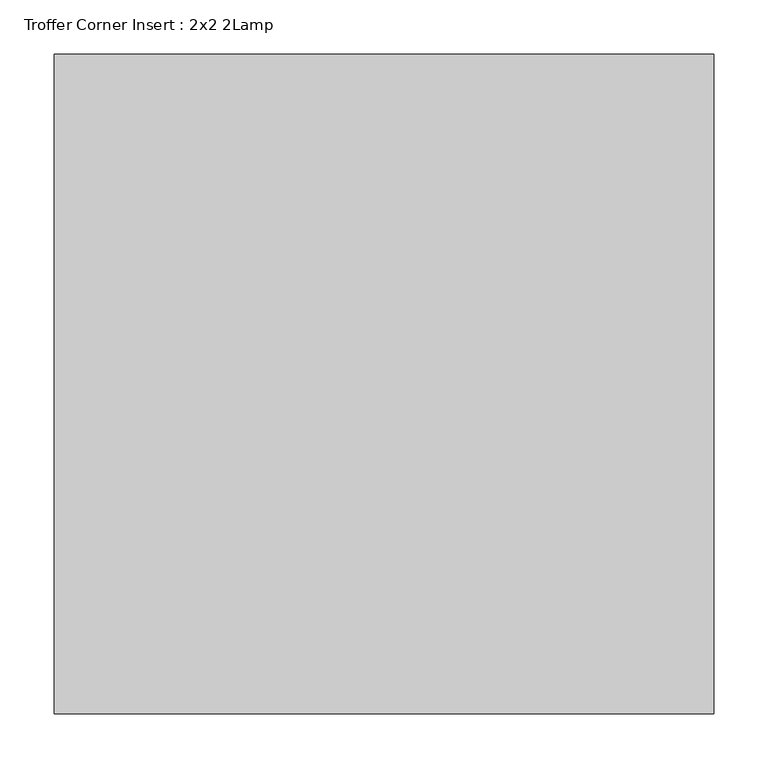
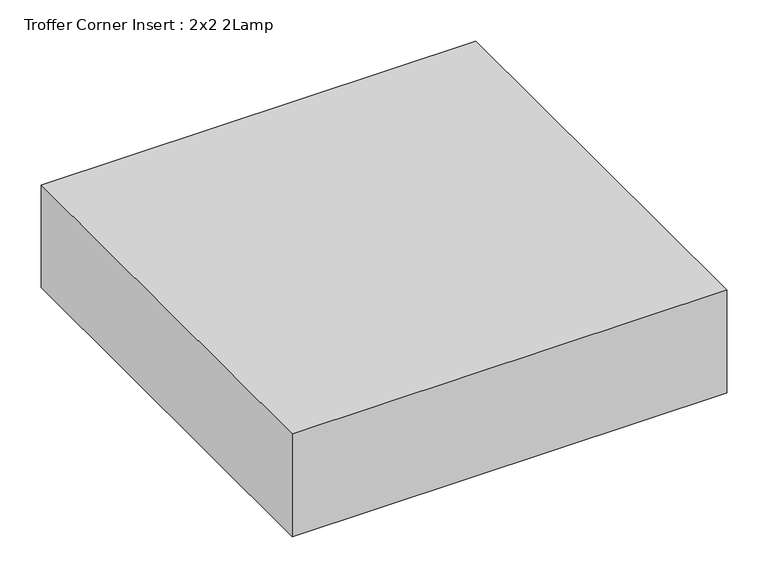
"""IFC4 building model written with IfcOpenShell, lengths in millimetres: light fixture geometry, Troffer Corner Insert : 2x2 2Lamp."""

import ifcopenshell
import ifcopenshell.guid

model = None  # the IFC model being written
_history = None  # IfcOwnerHistory: only IFC2X3 demands one
_inside = {}  # id of a spatial element -> (the spatial element, [elements in it])
_under = {}  # id of a project, library or spatial element -> (it, [spatial elements below it])
_declared = {}  # id of a project -> (the project, [libraries it declares])
_typed = {}  # id of a type object -> (the type object, [elements of that type])
_made_of = {}  # id of a material, layer set ... -> (it, [elements and type objects made of it])


def new_model(schema):
    """Start an empty IFC model of exactly this schema.

    Asked for "IFC4X3", IfcOpenShell would pick the latest addendum, in which some entities
    have other attributes; the version numbers below select the first issue.
    IFC2X3 requires an IfcOwnerHistory on every rooted entity: one is made here for all.
    """
    global model, _history
    if schema == "IFC4X3":
        model = ifcopenshell.file(schema_version=(4, 3, 0, 0))
    else:
        model = ifcopenshell.file(schema=schema)
    _inside.clear()
    _under.clear()
    _declared.clear()
    _typed.clear()
    _made_of.clear()
    _history = None
    if model.schema == "IFC2X3":
        org = make("IfcOrganization", Name="unknown")
        user = make(
            "IfcPersonAndOrganization",
            ThePerson=make("IfcPerson", FamilyName="unknown"),
            TheOrganization=org,
        )
        app = make(
            "IfcApplication",
            ApplicationDeveloper=org,
            Version="unknown",
            ApplicationFullName="unknown",
            ApplicationIdentifier="unknown",
        )
        _history = make(
            "IfcOwnerHistory",
            OwningUser=user,
            OwningApplication=app,
            ChangeAction="ADDED",
            CreationDate=0,
        )
    return model


def make(cls, **values):
    """One entity of the class cls with the attributes given. An attribute that is None is left unset."""
    return model.create_entity(
        cls, **{name: value for name, value in values.items() if value is not None}
    )


def rooted(cls, **values):
    """An entity with a GlobalId (a new one), such as an element, a storey or a relation."""
    return make(cls, GlobalId=ifcopenshell.guid.new(), OwnerHistory=_history, **values)


def si_unit(unit_type, name, prefix=None):
    """IfcSIUnit, for example si_unit("LENGTHUNIT", "METRE", prefix="MILLI")."""
    return make("IfcSIUnit", UnitType=unit_type, Prefix=prefix, Name=name)


def assignment(units):
    """IfcUnitAssignment: the units of a project."""
    return None if units is None else make("IfcUnitAssignment", Units=units)


def point(xyz):
    """IfcCartesianPoint."""
    return None if xyz is None else make("IfcCartesianPoint", Coordinates=xyz)


def direction(xyz):
    """IfcDirection."""
    return None if xyz is None else make("IfcDirection", DirectionRatios=xyz)


def frame(location, z_axis=None, x_axis=None):
    """IfcAxis2Placement3D, a coordinate frame: its origin and axes. An axis left out is left unset."""
    return make(
        "IfcAxis2Placement3D",
        Location=point(location),
        Axis=direction(z_axis),
        RefDirection=direction(x_axis),
    )


def origin():
    """The frame at (0, 0, 0) with its axes left unset."""
    return frame((0.0, 0.0, 0.0))


def place(relative_to, where):
    """IfcLocalPlacement: puts the frame where relative to a parent placement (None: the world)."""
    return make(
        "IfcLocalPlacement", PlacementRelTo=relative_to, RelativePlacement=where
    )


def context(
    kind, dimensions, precision=None, world=None, true_north=None, identifier=None
):
    """IfcGeometricRepresentationContext, for example the 3D "Model" context."""
    return make(
        "IfcGeometricRepresentationContext",
        ContextIdentifier=identifier,
        ContextType=kind,
        CoordinateSpaceDimension=dimensions,
        Precision=precision,
        WorldCoordinateSystem=world,
        TrueNorth=true_north,
    )


def project(units=None, contexts=None):
    """IfcProject with its units and contexts."""
    return rooted(
        "IfcProject",
        Name="project",
        RepresentationContexts=contexts,
        UnitsInContext=assignment(units),
    )


def spatial(cls, under=None, at=None, **own):
    """A site, building, storey or space (cls), placed at a placement, below another one or the project."""
    s = rooted(cls, ObjectPlacement=at, **own)
    if under is not None:
        _under.setdefault(under.id(), (under, []))[1].append(s)
    return s


def polyline(points):
    """IfcPolyline through the points."""
    return make("IfcPolyline", Points=[point(p) for p in points])


def outline(outer, holes=None, kind="AREA"):
    """IfcArbitraryClosedProfileDef: a profile drawn as a closed curve; with holes, ...WithVoids."""
    if holes is None:
        return make("IfcArbitraryClosedProfileDef", ProfileType=kind, OuterCurve=outer)
    return make(
        "IfcArbitraryProfileDefWithVoids",
        ProfileType=kind,
        OuterCurve=outer,
        InnerCurves=holes,
    )


def extrude(swept, where, along, depth):
    """IfcExtrudedAreaSolid: the profile swept, set in the frame where, extruded along a direction by depth."""
    return make(
        "IfcExtrudedAreaSolid",
        SweptArea=swept,
        Position=where,
        ExtrudedDirection=direction(along),
        Depth=depth,
    )


def shape(context_of_items, identifier, shape_type, items):
    """IfcShapeRepresentation: the items that make up one representation, for example the "Body"."""
    return make(
        "IfcShapeRepresentation",
        ContextOfItems=context_of_items,
        RepresentationIdentifier=identifier,
        RepresentationType=shape_type,
        Items=items,
    )


def source(mapping_origin, context_of_items, identifier, shape_type, items):
    """IfcRepresentationMap: a shape defined once, which mapped items show again and again."""
    return make(
        "IfcRepresentationMap",
        MappingOrigin=mapping_origin,
        MappedRepresentation=shape(context_of_items, identifier, shape_type, items),
    )


def transform(
    local_origin,
    x_axis=None,
    y_axis=None,
    z_axis=None,
    scale=None,
    scale2=None,
    scale3=None,
    uniform=True,
):
    """IfcCartesianTransformationOperator3D, or its non-uniform kind. x_axis, y_axis, z_axis: its Axis1, 2, 3."""
    if uniform:
        return make(
            "IfcCartesianTransformationOperator3D",
            Axis1=direction(x_axis),
            Axis2=direction(y_axis),
            LocalOrigin=point(local_origin),
            Scale=scale,
            Axis3=direction(z_axis),
        )
    return make(
        "IfcCartesianTransformationOperator3DnonUniform",
        Axis1=direction(x_axis),
        Axis2=direction(y_axis),
        LocalOrigin=point(local_origin),
        Scale=scale,
        Axis3=direction(z_axis),
        Scale2=scale2,
        Scale3=scale3,
    )


def mapped(mapping_source, mapping_target):
    """IfcMappedItem: shows the shape of a source again, moved by a transform."""
    return make(
        "IfcMappedItem", MappingSource=mapping_source, MappingTarget=mapping_target
    )


def made_of(thing, what):
    """Note that an element or type object is made of a material, layer set ...; save() writes the relation."""
    if what is not None:
        _made_of.setdefault(what.id(), (what, []))[1].append(thing)
    return thing


def element(
    cls,
    number,
    at=None,
    inside=None,
    cuts=None,
    type_object=None,
    material=None,
    context=None,
    identifier="Body",
    shape_type=None,
    held_by="IfcProductDefinitionShape",
    body=None,
    shapes=None,
    **own,
):
    """One element of the class cls, such as IfcWall. Its Tag is "e" and its number.

    at: its placement. inside: the storey or other place that contains it. cuts: it is an
    opening in that element (IfcRelVoidsElement). A single representation is given by context,
    identifier, shape_type and body (its items); several are given by shapes. held_by: the class
    of the entity that holds the representations. save() writes the other relations.
    """
    e = rooted(cls, Tag="e%d" % number, ObjectPlacement=at, **own)
    if body is not None:
        shapes = [shape(context, identifier, shape_type, body)]
    if shapes is not None:
        e.Representation = make(held_by, Representations=shapes)
    if inside is not None:
        _inside.setdefault(inside.id(), (inside, []))[1].append(e)
    if cuts is not None:
        rooted(
            "IfcRelVoidsElement", RelatingBuildingElement=cuts, RelatedOpeningElement=e
        )
    if type_object is not None:
        _typed.setdefault(type_object.id(), (type_object, []))[1].append(e)
    return made_of(e, material)


def aggregate(whole, parts):
    """IfcRelAggregates: a whole, such as a stair, and the parts it consists of."""
    return rooted("IfcRelAggregates", RelatingObject=whole, RelatedObjects=parts)


def save(model, path):
    """Write the relations noted so far, then the file.

    IfcRelAggregates (storeys below a building ...), IfcRelContainedInSpatialStructure (elements
    in a storey), IfcRelDefinesByType, IfcRelAssociatesMaterial and IfcRelDeclares: one each for
    every whole, place, type object, material and project.
    """
    for whole, parts in _under.values():
        aggregate(whole, parts)
    for where, things in _inside.values():
        rooted(
            "IfcRelContainedInSpatialStructure",
            RelatedElements=things,
            RelatingStructure=where,
        )
    for kind, things in _typed.values():
        rooted("IfcRelDefinesByType", RelatedObjects=things, RelatingType=kind)
    for what, things in _made_of.values():
        rooted("IfcRelAssociatesMaterial", RelatedObjects=things, RelatingMaterial=what)
    for by, libraries in _declared.values():
        rooted("IfcRelDeclares", RelatingContext=by, RelatedDefinitions=libraries)
    model.write(path)


def troffer_corner_insert_2x2_2lamp_fc5c5a6f(model_context):
    return source(origin(), model_context, "Body", "SweptSolid", [
        extrude(outline(polyline([(304.8, 304.8), (304.8, -304.8), (-304.8, -304.8), (-304.8, 304.8), (304.8, 304.8)])), frame((0.0, 0.0, 2438.4), z_axis=(0.0, 0.0, 1.0), x_axis=(1.0, 0.0, 0.0)), (0.0, 0.0, 1.0), 152.4),
    ])


if __name__ == "__main__":
    model = new_model("IFC4")
    model_context = context("Model", 3, world=origin())
    ifc_project = project(units=[si_unit("LENGTHUNIT", "METRE", prefix="MILLI")], contexts=[model_context])
    site = spatial("IfcSite", under=ifc_project)
    building = spatial("IfcBuilding", under=site)
    placement = place(None, origin())
    troffer_corner_insert_2x2_2lamp_shape = troffer_corner_insert_2x2_2lamp_fc5c5a6f(model_context)
    element("IfcLightFixture", 1, ObjectType="Troffer Corner Insert : 2x2 2Lamp", at=placement, inside=building, context=model_context, shape_type="MappedRepresentation", body=[
        mapped(troffer_corner_insert_2x2_2lamp_shape, transform((0.0, 0.0, 0.0), x_axis=(1.0, 0.0, 0.0), y_axis=(0.0, 1.0, 0.0), z_axis=(0.0, 0.0, 1.0))),
    ])
    save(model, "model.ifc")
